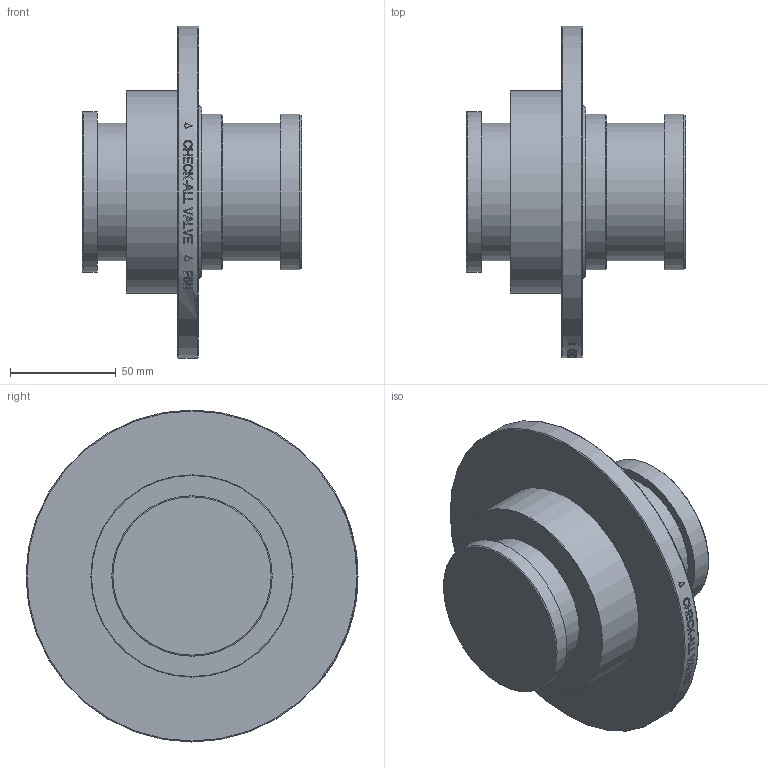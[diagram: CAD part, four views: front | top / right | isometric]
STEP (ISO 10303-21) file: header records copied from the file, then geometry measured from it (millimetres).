
FILE_DESCRIPTION( ( 'Unknown' ), '1' );
FILE_NAME( 'Y:/ENGR/3D Solid Edge Models/F6/F6 STEP/F6N.stp', 'Unknown', ( 'Unknown' ), ( 'Unknown' ), 'PSStep 14.0', 'Unknown', ' ' );
FILE_SCHEMA( ( 'AUTOMOTIVE_DESIGN { 1 0 10303 214 1 1 1 1 }' ) );
Length unit declared in the file: millimetre
Products named in the file (1): 1
Bounding box: 103.76 x 157.18 x 157.18 mm (x, y, z)
Volume: 625021 mm3; surface area: 69725.9 mm2
Topology: 1 solids, 1 shells, 213 faces, 534 edges, 354 vertices
Faces by surface type: plane 128, bspline 47, cylinder 31, torus 4, cone 3
Full cylindrical faces by diameter (mm): 65.024 x2, 73.787 x2, 75.946 x1, 95.783 x1, 157.175 x1
Entity records: 9956 total; most frequent: CARTESIAN_POINT 4291, ORIENTED_EDGE 1038, EDGE_CURVE 519, B_SPLINE_CURVE_WITH_KNOTS 497, DIRECTION 378, VERTEX_POINT 354, EDGE_LOOP 259, FACE_OUTER_BOUND 225
